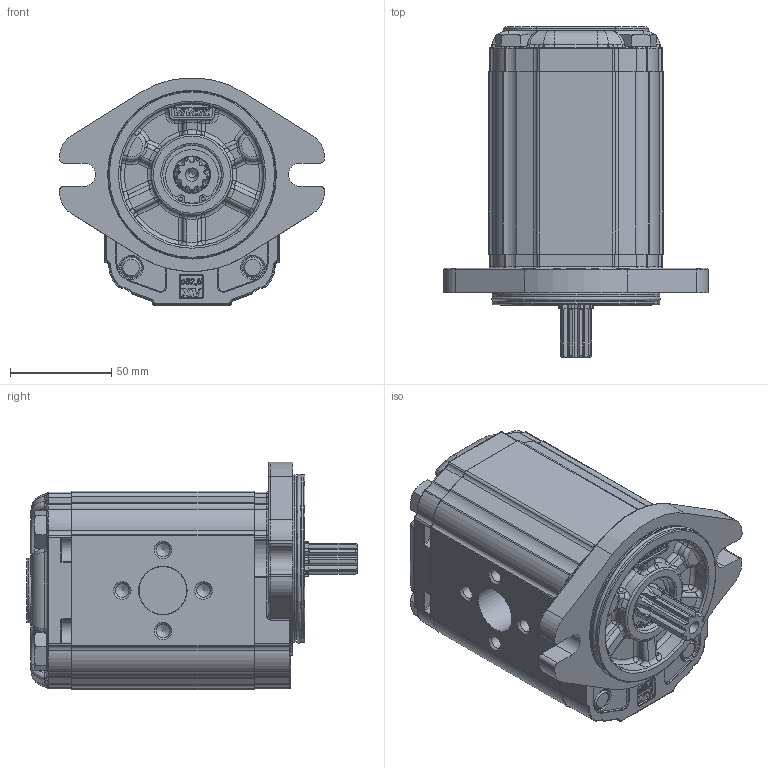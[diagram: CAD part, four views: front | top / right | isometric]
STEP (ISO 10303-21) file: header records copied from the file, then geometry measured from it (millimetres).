
FILE_DESCRIPTION(/* description */ ('Unknown'),/* implementation_level */ '2;1');
FILE_NAME(/* name */ 'X2M5931IQPE',/* time_stamp */ '2021-04-26T10:29:42+02:00',/* author */ ('Unknown'),/* organization */ ('Unknown'),/* preprocessor_version */ 'ST-DEVELOPER v16.7',/* originating_system */ 'Solid Edge',/* authorisation */ 'Unknown');
FILE_SCHEMA (('AUTOMOTIVE_DESIGN {1 0 10303 214 3 1 1}'));
Products named in the file (5): X2M5931IQPE; X2M31; 2I; X2QPH90; XM219-E
Assembly tree (4 placements, depth 2):
  X2M5931IQPE
    X2M31
    2I
    X2QPH90
    XM219-E
Bounding box: 130.38 x 162.7 x 112.3 mm (x, y, z)
Volume: 954337.3 mm3; surface area: 128663.9 mm2
Topology: 4 solids, 5 shells, 1576 faces, 3999 edges, 2497 vertices
Faces by surface type: plane 601, cylinder 442, bspline 210, torus 207, cone 90, sphere 26
Full cylindrical faces by diameter (mm): 2 x2, 6.647 x8, 11 x2, 11.445 x1, 11.5 x4, 16 x4, 17.42 x1, 18 x1, 20 x1, 20.595 x1, 23.332 x1, 23.5 x1, 25.834 x1, 28.5 x1, 28.56 x1, 28.57 x1, 28.8 x1, 30.4 x1, 79.6 x2, 82.5 x2
Entity records: 59622 total; most frequent: CARTESIAN_POINT 13001, ORIENTED_EDGE 7680, DIRECTION 7406, EDGE_CURVE 3840, AXIS2_PLACEMENT_3D 2748, VERTEX_POINT 2443, LINE 1910, VECTOR 1910
